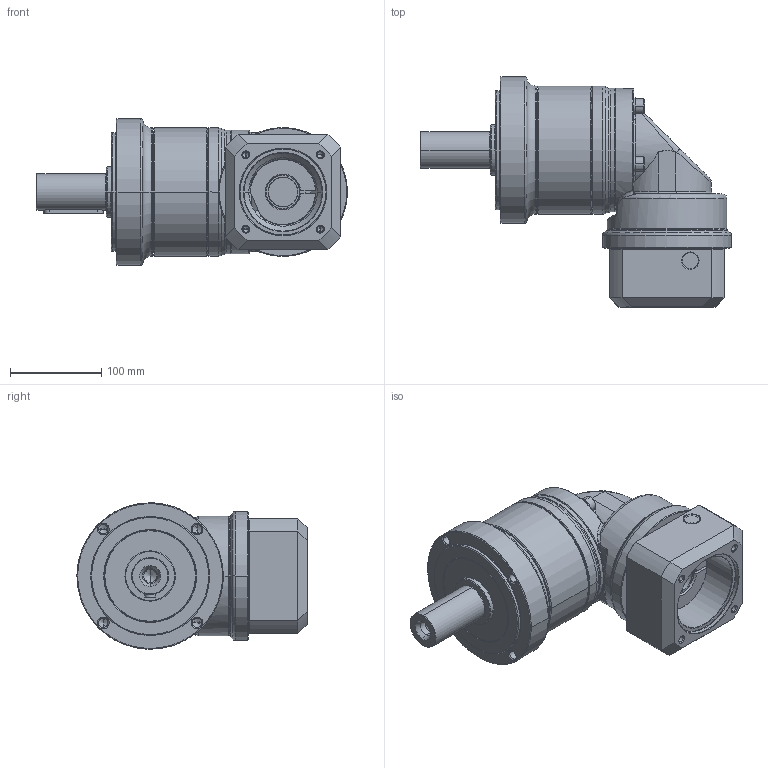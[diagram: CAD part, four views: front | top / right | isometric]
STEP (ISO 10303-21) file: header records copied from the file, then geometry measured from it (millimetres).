
FILE_DESCRIPTION((''),'2;1');
FILE_NAME('PG2R-160_1ST_32-P0411700101_ASM','2016-04-26T',('d01943'),(''),'PRO/ENGINEER BY PARAMETRIC TECHNOLOGY CORPORATION, 2008410','PRO/ENGINEER BY PARAMETRIC TECHNOLOGY CORPORATION, 2008410','');
FILE_SCHEMA(('CONFIG_CONTROL_DESIGN'));
Length unit declared in the file: millimetre
Products named in the file (12): P1325510001; P0250500001; P0350501103; P1349500001; P1017500001; P0713503001; P0503700010; P1350500301; P0411700101; P1702600001; 2111BA10040; PG2R-160_1ST_32-P0411700101_ASM
Assembly tree (14 placements, depth 2):
  PG2R-160_1ST_32-P0411700101_ASM
    P1325510001
    P0250500001
    P0350501103
    P1349500001
    P1017500001
    P0713503001
    P0503700010
    P1350500301
    P0411700101
    P1702600001
    2111BA10040  x4
Bounding box: 340 x 251.5 x 160 mm (x, y, z)
Volume: 3193907.2 mm3; surface area: 492993.6 mm2
Topology: 14 solids, 15 shells, 699 faces, 1542 edges, 896 vertices
Faces by surface type: cylinder 215, cone 194, plane 156, torus 102, bspline 32
Entity records: 22533 total; most frequent: CARTESIAN_POINT 9051, DIRECTION 2987, ORIENTED_EDGE 2608, EDGE_CURVE 1304, AXIS2_PLACEMENT_3D 1264, VERTEX_POINT 776, EDGE_LOOP 676, CIRCLE 670
